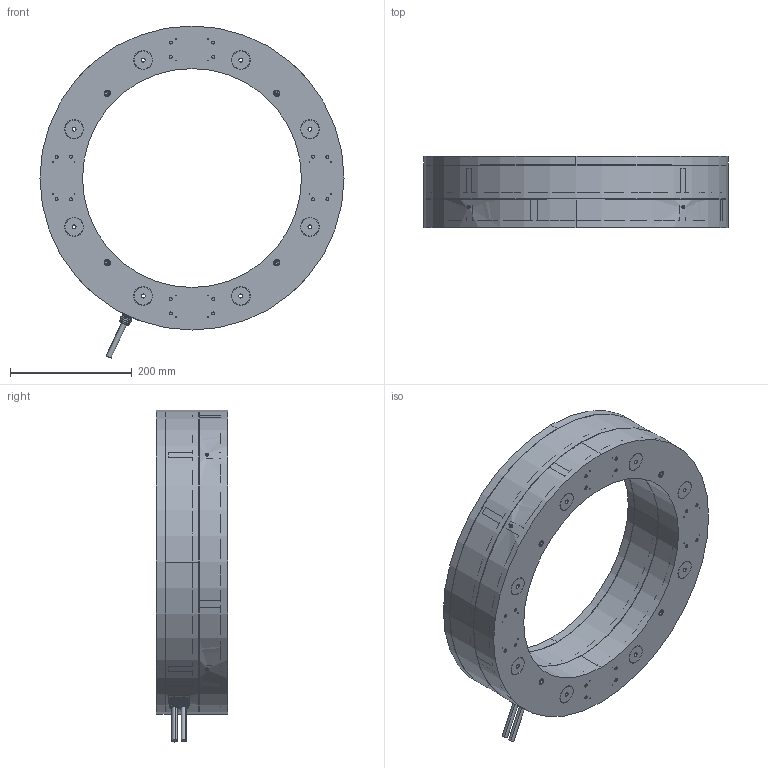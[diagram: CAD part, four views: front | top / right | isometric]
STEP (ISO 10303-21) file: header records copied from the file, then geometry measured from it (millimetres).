
FILE_DESCRIPTION (( 'STEP AP214' ), '1' );
FILE_NAME ('ARDE22014-01拻峎す怢蚾饜极-72.STEP', '2024-03-07T02:03:15', ( '' ), ( '' ), 'SwSTEP 2.0', 'SolidWorks 2021', '' );
FILE_SCHEMA (( 'AUTOMOTIVE_DESIGN' ));
Length unit declared in the file: millimetre
Products named in the file (15): hexagon socket head cap screws gb_GB_FASTENER_SCREWS_HSHCS M6X16-N; 揤盄輸; hexagon socket head cap screws gb_GB_FASTENER_SCREWS_HSHCS M4X16-N; ZIL43-M16; ARDE22014-01-03馱釬怢; hexagon socket head cap screws gb_GB_FASTENER_SCREWS_HSHCS M6X10-N; 电容动极板支座-2; ARDE22014-01-01狟菁釱; 电容动极板支座; ARDE22014-01拻峎す怢蚾饜极-72; 电容传感器陶瓷动基板; hexagon socket head cap screws gb_GB_FASTENER_SCREWS_HSHCS M6X12-N; ARDE22014-01-02菁釱; hexagon socket head cap screws gb_GB_FASTENER_SCREWS_HSHCS M3X10-N; GB／T70．1-2000内六角圆柱头螺钉M2×12
Assembly tree (79 placements, depth 2):
  ARDE22014-01拻峎す怢蚾饜极-72
    ARDE22014-01-01狟菁釱
    ARDE22014-01-02菁釱
    hexagon socket head cap screws gb_GB_FASTENER_SCREWS_HSHCS M6X16-N  x4
    hexagon socket head cap screws gb_GB_FASTENER_SCREWS_HSHCS M4X16-N  x16
    ARDE22014-01-03馱釬怢
    hexagon socket head cap screws gb_GB_FASTENER_SCREWS_HSHCS M6X10-N  x4
    hexagon socket head cap screws gb_GB_FASTENER_SCREWS_HSHCS M6X12-N  x16
    电容动极板支座  x4
    hexagon socket head cap screws gb_GB_FASTENER_SCREWS_HSHCS M3X10-N  x12
    电容动极板支座-2  x4
    电容传感器陶瓷动基板  x2
    揤盄輸  x4
    GB／T70．1-2000内六角圆柱头螺钉M2×12  x8
    ZIL43-M16  x2
Bounding box: 500 x 117.2 x 545.98 mm (x, y, z)
Volume: 2979172.8 mm3; surface area: 1278675.5 mm2
Topology: 91 solids, 91 shells, 3700 faces, 9312 edges, 5930 vertices
Faces by surface type: plane 1791, cylinder 1373, cone 288, torus 152, bspline 96
Entity records: 71850 total; most frequent: CARTESIAN_POINT 19953, DIRECTION 9874, ORIENTED_EDGE 9394, EDGE_CURVE 4697, AXIS2_PLACEMENT_3D 3793, VERTEX_POINT 3097, VECTOR 2288, LINE 2288
